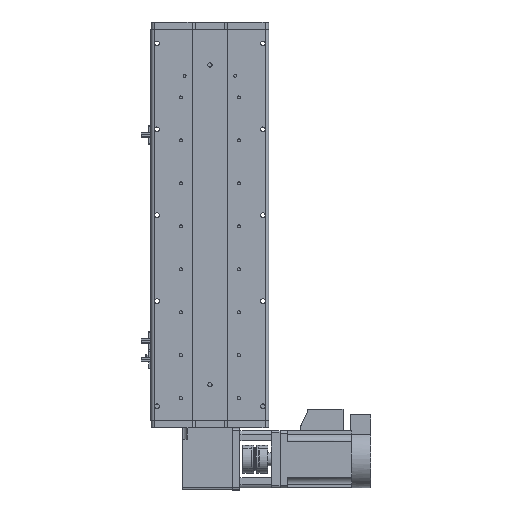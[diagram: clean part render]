
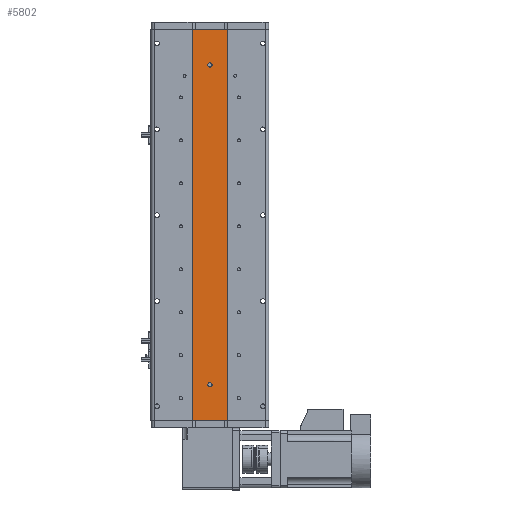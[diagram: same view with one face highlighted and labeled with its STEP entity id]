
A CAD part, front view. The second image highlights one B-rep face of the part: STEP entity #5802.
In plain terms, the highlighted planar face has unit normal (0, -1, 0).
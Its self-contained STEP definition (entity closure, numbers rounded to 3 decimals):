
#1131 = CARTESIAN_POINT ( 'NONE',  ( 0., 1., 220.5 ) ) ;
#1831 = AXIS2_PLACEMENT_3D ( 'NONE', #3187, #27478, #6699 ) ;
#3187 = CARTESIAN_POINT ( 'NONE',  ( 0., 1., -223.5 ) ) ;
#3358 = CARTESIAN_POINT ( 'NONE',  ( 0., 1., 226.5 ) ) ;
#3747 = EDGE_LOOP ( 'NONE', ( #20948, #26956 ) ) ;
#4843 = LINE ( 'NONE', #34741, #22162 ) ;
#5802 = ADVANCED_FACE ( 'NONE', ( #26388, #27467, #36665 ), #24325, .F. ) ;
#6363 = VERTEX_POINT ( 'NONE', #15909 ) ;
#6699 = DIRECTION ( 'NONE',  ( 0., 0., 1. ) ) ;
#7215 = DIRECTION ( 'NONE',  ( 0., 0., 1. ) ) ;
#7842 = CARTESIAN_POINT ( 'NONE',  ( -25., 1., 273.5 ) ) ;
#8694 = CARTESIAN_POINT ( 'NONE',  ( 0., 1., -226.5 ) ) ;
#8794 = CARTESIAN_POINT ( 'NONE',  ( 25., 1., -273.5 ) ) ;
#9123 = LINE ( 'NONE', #36817, #17190 ) ;
#9529 = VERTEX_POINT ( 'NONE', #1131 ) ;
#9880 = DIRECTION ( 'NONE',  ( 0., 1., 0. ) ) ;
#11317 = CARTESIAN_POINT ( 'NONE',  ( 25., 1., -273.5 ) ) ;
#11812 = CARTESIAN_POINT ( 'NONE',  ( 0., 1., 223.5 ) ) ;
#12627 = VERTEX_POINT ( 'NONE', #7842 ) ;
#13247 = VECTOR ( 'NONE', #29524, 1000. ) ;
#14275 = VERTEX_POINT ( 'NONE', #24285 ) ;
#14615 = EDGE_CURVE ( 'NONE', #12627, #6363, #9123, .T. ) ;
#14683 = CARTESIAN_POINT ( 'NONE',  ( 25., 1., 273.5 ) ) ;
#15276 = DIRECTION ( 'NONE',  ( 0., 0., 1. ) ) ;
#15909 = CARTESIAN_POINT ( 'NONE',  ( -25., 1., -273.5 ) ) ;
#16069 = ORIENTED_EDGE ( 'NONE', *, *, #40359, .F. ) ;
#16816 = CARTESIAN_POINT ( 'NONE',  ( 0., 1., -223.5 ) ) ;
#16996 = EDGE_LOOP ( 'NONE', ( #28574, #16069, #24811, #27982 ) ) ;
#17074 = CARTESIAN_POINT ( 'NONE',  ( 25., 1., 273.5 ) ) ;
#17190 = VECTOR ( 'NONE', #26547, 1000. ) ;
#18539 = VERTEX_POINT ( 'NONE', #11317 ) ;
#18649 = CIRCLE ( 'NONE', #38178, 3. ) ;
#19549 = AXIS2_PLACEMENT_3D ( 'NONE', #30620, #9880, #34108 ) ;
#19992 = VECTOR ( 'NONE', #32160, 1000. ) ;
#20134 = EDGE_CURVE ( 'NONE', #6363, #18539, #31734, .T. ) ;
#20291 = DIRECTION ( 'NONE',  ( 0., 0., 1. ) ) ;
#20930 = DIRECTION ( 'NONE',  ( 1., 0., 0. ) ) ;
#20948 = ORIENTED_EDGE ( 'NONE', *, *, #25287, .T. ) ;
#20955 = CARTESIAN_POINT ( 'NONE',  ( 25., 1., 273.5 ) ) ;
#21204 = VERTEX_POINT ( 'NONE', #8694 ) ;
#22162 = VECTOR ( 'NONE', #20930, 1000. ) ;
#23321 = EDGE_CURVE ( 'NONE', #12627, #34550, #4843, .T. ) ;
#24285 = CARTESIAN_POINT ( 'NONE',  ( 0., 1., -220.5 ) ) ;
#24325 = PLANE ( 'NONE',  #34868 ) ;
#24811 = ORIENTED_EDGE ( 'NONE', *, *, #23321, .F. ) ;
#25287 = EDGE_CURVE ( 'NONE', #9529, #41968, #35674, .T. ) ;
#26388 = FACE_BOUND ( 'NONE', #35729, .T. ) ;
#26547 = DIRECTION ( 'NONE',  ( 0., 0., -1. ) ) ;
#26887 = AXIS2_PLACEMENT_3D ( 'NONE', #11812, #36061, #15276 ) ;
#26956 = ORIENTED_EDGE ( 'NONE', *, *, #38790, .T. ) ;
#27176 = CIRCLE ( 'NONE', #1831, 3. ) ;
#27223 = EDGE_CURVE ( 'NONE', #21204, #14275, #18649, .T. ) ;
#27467 = FACE_BOUND ( 'NONE', #3747, .T. ) ;
#27478 = DIRECTION ( 'NONE',  ( 0., 1., 0. ) ) ;
#27964 = DIRECTION ( 'NONE',  ( 0., 1., 0. ) ) ;
#27982 = ORIENTED_EDGE ( 'NONE', *, *, #14615, .T. ) ;
#28574 = ORIENTED_EDGE ( 'NONE', *, *, #20134, .T. ) ;
#29524 = DIRECTION ( 'NONE',  ( 1., 0., 0. ) ) ;
#30620 = CARTESIAN_POINT ( 'NONE',  ( 0., 1., 223.5 ) ) ;
#31734 = LINE ( 'NONE', #8794, #13247 ) ;
#31857 = ORIENTED_EDGE ( 'NONE', *, *, #32521, .T. ) ;
#32160 = DIRECTION ( 'NONE',  ( 0., 0., -1. ) ) ;
#32521 = EDGE_CURVE ( 'NONE', #14275, #21204, #27176, .T. ) ;
#34108 = DIRECTION ( 'NONE',  ( 0., 0., 1. ) ) ;
#34550 = VERTEX_POINT ( 'NONE', #17074 ) ;
#34741 = CARTESIAN_POINT ( 'NONE',  ( 25., 1., 273.5 ) ) ;
#34868 = AXIS2_PLACEMENT_3D ( 'NONE', #20955, #27964, #7215 ) ;
#35666 = ORIENTED_EDGE ( 'NONE', *, *, #27223, .T. ) ;
#35674 = CIRCLE ( 'NONE', #19549, 3. ) ;
#35729 = EDGE_LOOP ( 'NONE', ( #35666, #31857 ) ) ;
#36061 = DIRECTION ( 'NONE',  ( 0., 1., 0. ) ) ;
#36665 = FACE_OUTER_BOUND ( 'NONE', #16996, .T. ) ;
#36817 = CARTESIAN_POINT ( 'NONE',  ( -25., 1., 273.5 ) ) ;
#37349 = LINE ( 'NONE', #14683, #19992 ) ;
#38178 = AXIS2_PLACEMENT_3D ( 'NONE', #16816, #41090, #20291 ) ;
#38790 = EDGE_CURVE ( 'NONE', #41968, #9529, #40352, .T. ) ;
#40352 = CIRCLE ( 'NONE', #26887, 3. ) ;
#40359 = EDGE_CURVE ( 'NONE', #34550, #18539, #37349, .T. ) ;
#41090 = DIRECTION ( 'NONE',  ( 0., 1., 0. ) ) ;
#41968 = VERTEX_POINT ( 'NONE', #3358 ) ;
